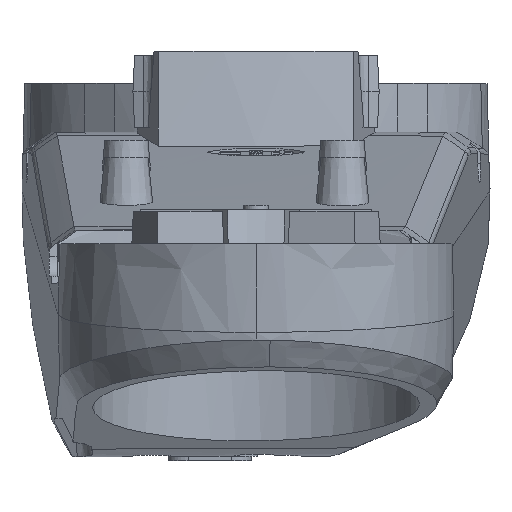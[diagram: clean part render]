
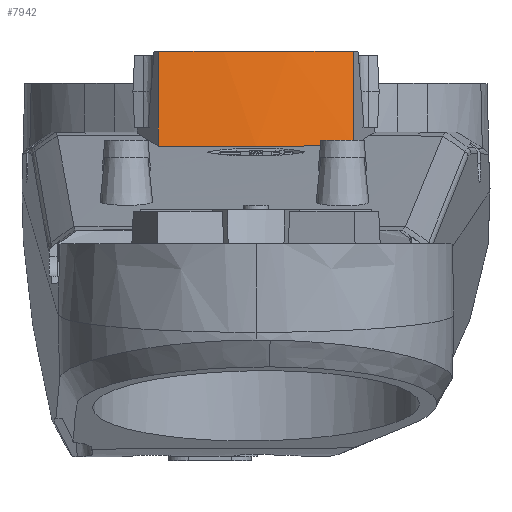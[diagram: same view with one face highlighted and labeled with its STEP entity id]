
A CAD part, top view. The second image highlights one B-rep face of the part: STEP entity #7942.
In plain terms, the highlighted conical face has half-angle 12 degrees and reference radius 650 mm.
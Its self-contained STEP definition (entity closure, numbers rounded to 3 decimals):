
#690 = CARTESIAN_POINT ( 'NONE',  ( 211.974, -128.913, 955.371 ) ) ;
#985 = CARTESIAN_POINT ( 'NONE',  ( 277.533, -129.196, 958.917 ) ) ;
#1396 = CARTESIAN_POINT ( 'NONE',  ( 302.803, -129.101, 958.9 ) ) ;
#2071 = EDGE_CURVE ( 'NONE', #25895, #7964, #14321, .T. ) ;
#2080 = EDGE_LOOP ( 'NONE', ( #9621, #13312, #20380, #21186 ) ) ;
#2128 = CARTESIAN_POINT ( 'NONE',  ( 347.725, -63., 941.317 ) ) ;
#2164 = B_SPLINE_CURVE_WITH_KNOTS ( 'NONE', 3,
 ( #17481, #9249, #5580, #15470, #21935, #21801, #20052, #23829, #985, #22070, #3427, #19924, #9392, #1396, #9657, #9791 ),
 .UNSPECIFIED., .F., .F.,
 ( 4, 2, 2, 1, 1, 1, 1, 2, 2, 4 ),
 ( 0., 0.25, 0.375, 0.438, 0.469, 0.484, 0.492, 0.496, 0.5, 1. ),
 .UNSPECIFIED. ) ;
#2265 = CARTESIAN_POINT ( 'NONE',  ( 348.023, -128.39, 955.26 ) ) ;
#3427 = CARTESIAN_POINT ( 'NONE',  ( 279.298, -129.19, 958.919 ) ) ;
#3794 = DIRECTION ( 'NONE',  ( 1., 0., 0. ) ) ;
#3895 = CARTESIAN_POINT ( 'NONE',  ( 347.825, -84.797, 945.965 ) ) ;
#5580 = CARTESIAN_POINT ( 'NONE',  ( 234.693, -129.136, 957.46 ) ) ;
#5675 = DIRECTION ( 'NONE',  ( 0., -1., 0. ) ) ;
#5698 = CARTESIAN_POINT ( 'NONE',  ( 212.275, -63., 941.317 ) ) ;
#5748 = CARTESIAN_POINT ( 'NONE',  ( 347.725, -63., 941.317 ) ) ;
#6181 = CONICAL_SURFACE ( 'NONE', #19127, 650., 0.209 ) ;
#6656 = CARTESIAN_POINT ( 'NONE',  ( 212.074, -106.942, 950.687 ) ) ;
#7942 = ADVANCED_FACE ( 'NONE', ( #20686 ), #6181, .T. ) ;
#7964 = VERTEX_POINT ( 'NONE', #8919 ) ;
#8395 = CIRCLE ( 'NONE', #19619, 650.85 ) ;
#8919 = CARTESIAN_POINT ( 'NONE',  ( 211.974, -128.913, 955.371 ) ) ;
#9249 = CARTESIAN_POINT ( 'NONE',  ( 223.333, -129.046, 956.568 ) ) ;
#9392 = CARTESIAN_POINT ( 'NONE',  ( 279.826, -129.188, 958.919 ) ) ;
#9416 = EDGE_CURVE ( 'NONE', #12703, #25895, #8395, .T. ) ;
#9621 = ORIENTED_EDGE ( 'NONE', *, *, #22458, .F. ) ;
#9657 = CARTESIAN_POINT ( 'NONE',  ( 325.519, -128.836, 957.67 ) ) ;
#9791 = CARTESIAN_POINT ( 'NONE',  ( 348.023, -128.39, 955.26 ) ) ;
#9896 = CARTESIAN_POINT ( 'NONE',  ( 280., -59., 294. ) ) ;
#12457 = CARTESIAN_POINT ( 'NONE',  ( 348.023, -128.39, 955.26 ) ) ;
#12703 = VERTEX_POINT ( 'NONE', #5748 ) ;
#13150 = CARTESIAN_POINT ( 'NONE',  ( 212.175, -84.971, 946.002 ) ) ;
#13312 = ORIENTED_EDGE ( 'NONE', *, *, #9416, .T. ) ;
#14321 = B_SPLINE_CURVE_WITH_KNOTS ( 'NONE', 3,
 ( #19225, #13150, #6656, #690 ),
 .UNSPECIFIED., .F., .F.,
 ( 4, 4 ),
 ( 0.437, 0.504 ),
 .UNSPECIFIED. ) ;
#14398 = EDGE_CURVE ( 'NONE', #7964, #15834, #2164, .T. ) ;
#15470 = CARTESIAN_POINT ( 'NONE',  ( 251.709, -129.205, 958.345 ) ) ;
#15834 = VERTEX_POINT ( 'NONE', #12457 ) ;
#16232 = DIRECTION ( 'NONE',  ( 0., -1., 0. ) ) ;
#17481 = CARTESIAN_POINT ( 'NONE',  ( 211.974, -128.913, 955.371 ) ) ;
#19127 = AXIS2_PLACEMENT_3D ( 'NONE', #9896, #16232, #3794 ) ;
#19225 = CARTESIAN_POINT ( 'NONE',  ( 212.275, -63., 941.317 ) ) ;
#19619 = AXIS2_PLACEMENT_3D ( 'NONE', #24186, #5675, #26350 ) ;
#19924 = CARTESIAN_POINT ( 'NONE',  ( 279.651, -129.188, 958.919 ) ) ;
#20052 = CARTESIAN_POINT ( 'NONE',  ( 270.114, -129.214, 958.862 ) ) ;
#20380 = ORIENTED_EDGE ( 'NONE', *, *, #2071, .T. ) ;
#20617 = B_SPLINE_CURVE_WITH_KNOTS ( 'NONE', 3,
 ( #2128, #3895, #24973, #2265 ),
 .UNSPECIFIED., .F., .F.,
 ( 4, 4 ),
 ( 0.434, 0.501 ),
 .UNSPECIFIED. ) ;
#20686 = FACE_OUTER_BOUND ( 'NONE', #2080, .T. ) ;
#21186 = ORIENTED_EDGE ( 'NONE', *, *, #14398, .T. ) ;
#21801 = CARTESIAN_POINT ( 'NONE',  ( 265.87, -129.218, 958.781 ) ) ;
#21935 = CARTESIAN_POINT ( 'NONE',  ( 257.377, -129.217, 958.564 ) ) ;
#22070 = CARTESIAN_POINT ( 'NONE',  ( 278.768, -129.191, 958.919 ) ) ;
#22458 = EDGE_CURVE ( 'NONE', #12703, #15834, #20617, .T. ) ;
#23829 = CARTESIAN_POINT ( 'NONE',  ( 275.061, -129.203, 958.906 ) ) ;
#24186 = CARTESIAN_POINT ( 'NONE',  ( 280., -63., 294. ) ) ;
#24973 = CARTESIAN_POINT ( 'NONE',  ( 347.924, -106.593, 950.612 ) ) ;
#25895 = VERTEX_POINT ( 'NONE', #5698 ) ;
#26350 = DIRECTION ( 'NONE',  ( -1., 0., 0. ) ) ;
